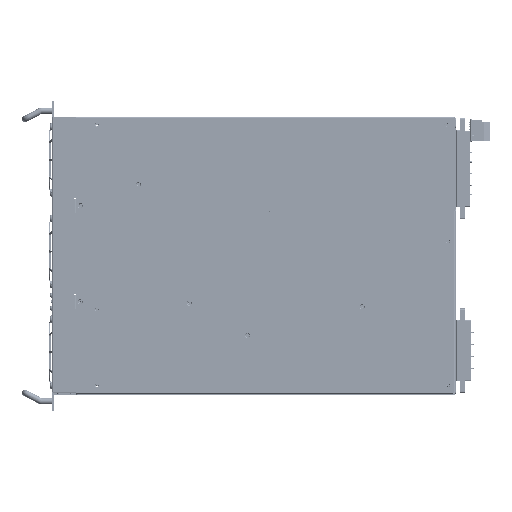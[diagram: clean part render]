
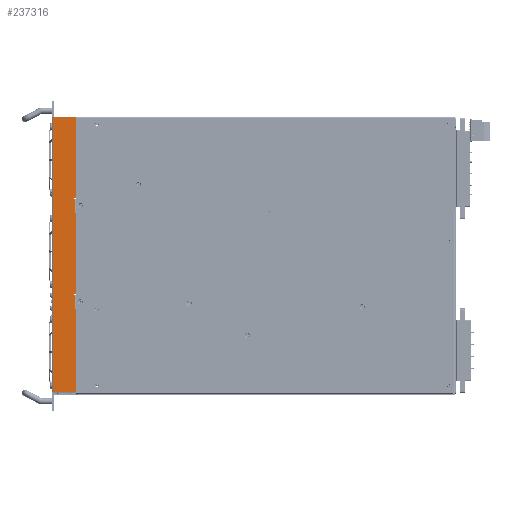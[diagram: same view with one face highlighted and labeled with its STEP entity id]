
A CAD part, front view. The second image highlights one B-rep face of the part: STEP entity #237316.
In plain terms, the highlighted planar face has unit normal (0, -1, 0) as drawn and (0, 0, -1) by its records, which use the part's own axes.
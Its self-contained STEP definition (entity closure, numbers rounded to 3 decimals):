
#9938=PLANE('',#253284);
#22821=LINE('',#347288,#44133);
#22823=LINE('',#347292,#44135);
#22828=LINE('',#347302,#44140);
#22934=LINE('',#347591,#44246);
#22987=LINE('',#347709,#44299);
#22991=LINE('',#347718,#44303);
#22994=LINE('',#347724,#44306);
#22996=LINE('',#347727,#44308);
#22999=LINE('',#347733,#44311);
#23002=LINE('',#347739,#44314);
#25508=LINE('',#363506,#46820);
#25607=LINE('',#363771,#46919);
#25612=LINE('',#363786,#46924);
#25651=LINE('',#364051,#46963);
#25654=LINE('',#364055,#46966);
#25660=LINE('',#364065,#46972);
#25661=LINE('',#364067,#46973);
#25662=LINE('',#364068,#46974);
#25663=LINE('',#364070,#46975);
#25664=LINE('',#364071,#46976);
#44133=VECTOR('',#284754,1000.);
#44135=VECTOR('',#284758,1000.);
#44140=VECTOR('',#284765,1000.);
#44246=VECTOR('',#285067,1000.);
#44299=VECTOR('',#285180,1000.);
#44303=VECTOR('',#285186,1000.);
#44306=VECTOR('',#285191,1000.);
#44308=VECTOR('',#285195,1000.);
#44311=VECTOR('',#285200,1000.);
#44314=VECTOR('',#285205,1000.);
#46820=VECTOR('',#294047,1000.);
#46919=VECTOR('',#294326,1000.);
#46924=VECTOR('',#294341,1000.);
#46963=VECTOR('',#294766,1000.);
#46966=VECTOR('',#294771,1000.);
#46972=VECTOR('',#294781,1000.);
#46973=VECTOR('',#294782,1000.);
#46974=VECTOR('',#294783,1000.);
#46975=VECTOR('',#294784,1000.);
#46976=VECTOR('',#294785,1000.);
#91588=ORIENTED_EDGE('',*,*,#137995,.T.);
#91589=ORIENTED_EDGE('',*,*,#137996,.T.);
#91590=ORIENTED_EDGE('',*,*,#132414,.T.);
#91591=ORIENTED_EDGE('',*,*,#132411,.T.);
#91592=ORIENTED_EDGE('',*,*,#132407,.T.);
#91593=ORIENTED_EDGE('',*,*,#137986,.F.);
#91594=ORIENTED_EDGE('',*,*,#137846,.F.);
#91595=ORIENTED_EDGE('',*,*,#137854,.T.);
#91596=ORIENTED_EDGE('',*,*,#137701,.F.);
#91597=ORIENTED_EDGE('',*,*,#137989,.F.);
#91598=ORIENTED_EDGE('',*,*,#132422,.T.);
#91599=ORIENTED_EDGE('',*,*,#132419,.T.);
#91600=ORIENTED_EDGE('',*,*,#132416,.T.);
#91601=ORIENTED_EDGE('',*,*,#132347,.T.);
#91602=ORIENTED_EDGE('',*,*,#137997,.F.);
#91603=ORIENTED_EDGE('',*,*,#137998,.T.);
#91604=ORIENTED_EDGE('',*,*,#132193,.F.);
#91605=ORIENTED_EDGE('',*,*,#132191,.F.);
#91606=ORIENTED_EDGE('',*,*,#132198,.T.);
#91607=ORIENTED_EDGE('',*,*,#137999,.T.);
#132191=EDGE_CURVE('',#159763,#159764,#22821,.T.);
#132193=EDGE_CURVE('',#159764,#159765,#22823,.T.);
#132198=EDGE_CURVE('',#159763,#159768,#22828,.T.);
#132347=EDGE_CURVE('',#159854,#159788,#22934,.T.);
#132407=EDGE_CURVE('',#159889,#159890,#22987,.T.);
#132411=EDGE_CURVE('',#159893,#159889,#22991,.T.);
#132414=EDGE_CURVE('',#159856,#159893,#22994,.T.);
#132416=EDGE_CURVE('',#159895,#159854,#22996,.T.);
#132419=EDGE_CURVE('',#159897,#159895,#22999,.T.);
#132422=EDGE_CURVE('',#159899,#159897,#23002,.T.);
#137701=EDGE_CURVE('',#163443,#163444,#25508,.T.);
#137846=EDGE_CURVE('',#163518,#163519,#25607,.T.);
#137854=EDGE_CURVE('',#163518,#163444,#25612,.T.);
#137986=EDGE_CURVE('',#163519,#159890,#25651,.T.);
#137989=EDGE_CURVE('',#159899,#163443,#25654,.T.);
#137995=EDGE_CURVE('',#163535,#159791,#25660,.T.);
#137996=EDGE_CURVE('',#159791,#159856,#25661,.T.);
#137997=EDGE_CURVE('',#163536,#159788,#25662,.T.);
#137998=EDGE_CURVE('',#163536,#159765,#25663,.T.);
#137999=EDGE_CURVE('',#159768,#163535,#25664,.T.);
#159763=VERTEX_POINT('',#347287);
#159764=VERTEX_POINT('',#347289);
#159765=VERTEX_POINT('',#347293);
#159768=VERTEX_POINT('',#347301);
#159788=VERTEX_POINT('',#347349);
#159791=VERTEX_POINT('',#347356);
#159854=VERTEX_POINT('',#347592);
#159856=VERTEX_POINT('',#347600);
#159889=VERTEX_POINT('',#347710);
#159890=VERTEX_POINT('',#347711);
#159893=VERTEX_POINT('',#347719);
#159895=VERTEX_POINT('',#347728);
#159897=VERTEX_POINT('',#347734);
#159899=VERTEX_POINT('',#347740);
#163443=VERTEX_POINT('',#363507);
#163444=VERTEX_POINT('',#363508);
#163518=VERTEX_POINT('',#363770);
#163519=VERTEX_POINT('',#363772);
#163535=VERTEX_POINT('',#364066);
#163536=VERTEX_POINT('',#364069);
#185872=EDGE_LOOP('',(#91588,#91589,#91590,#91591,#91592,#91593,#91594,
#91595,#91596,#91597,#91598,#91599,#91600,#91601,#91602,#91603,#91604,#91605,
#91606,#91607));
#198822=FACE_BOUND('',#185872,.T.);
#237316=ADVANCED_FACE('',(#198822),#9938,.T.);
#253284=AXIS2_PLACEMENT_3D('',#364064,#294779,#294780);
#284754=DIRECTION('',(-1.,0.,0.));
#284758=DIRECTION('',(0.,-1.,0.));
#284765=DIRECTION('',(0.,-1.,0.));
#285067=DIRECTION('',(1.,0.,0.));
#285180=DIRECTION('',(0.,1.,0.));
#285186=DIRECTION('',(1.,0.,0.));
#285191=DIRECTION('',(0.,-1.,0.));
#285195=DIRECTION('',(0.,1.,0.));
#285200=DIRECTION('',(1.,0.,0.));
#285205=DIRECTION('',(0.,-1.,0.));
#294047=DIRECTION('',(0.,-1.,0.));
#294326=DIRECTION('',(0.,1.,0.));
#294341=DIRECTION('',(-1.,0.,0.));
#294766=DIRECTION('',(-1.,0.,0.));
#294771=DIRECTION('',(-1.,0.,0.));
#294779=DIRECTION('',(0.,0.,-1.));
#294780=DIRECTION('',(-1.,0.,0.));
#294781=DIRECTION('',(0.,1.,0.));
#294782=DIRECTION('',(1.,0.,0.));
#294783=DIRECTION('',(0.,1.,0.));
#294784=DIRECTION('',(1.,0.,0.));
#294785=DIRECTION('',(1.,0.,0.));
#347287=CARTESIAN_POINT('',(46.407,24.8,-42.));
#347288=CARTESIAN_POINT('',(46.407,24.8,-42.));
#347289=CARTESIAN_POINT('',(-41.393,24.8,-42.));
#347292=CARTESIAN_POINT('',(-41.393,112.608,-42.));
#347293=CARTESIAN_POINT('',(-41.393,22.9,-42.));
#347301=CARTESIAN_POINT('',(46.407,22.9,-42.));
#347302=CARTESIAN_POINT('',(46.407,112.608,-42.));
#347349=CARTESIAN_POINT('',(-41.993,23.5,-42.));
#347356=CARTESIAN_POINT('',(47.007,23.5,-42.));
#347591=CARTESIAN_POINT('',(-56.993,23.5,-42.));
#347592=CARTESIAN_POINT('',(-56.993,23.5,-42.));
#347600=CARTESIAN_POINT('',(62.007,23.5,-42.));
#347709=CARTESIAN_POINT('',(62.607,0.,-42.));
#347710=CARTESIAN_POINT('',(62.607,22.9,-42.));
#347711=CARTESIAN_POINT('',(62.607,24.8,-42.));
#347718=CARTESIAN_POINT('',(0.,22.9,-42.));
#347719=CARTESIAN_POINT('',(62.007,22.9,-42.));
#347724=CARTESIAN_POINT('',(62.007,0.,-42.));
#347727=CARTESIAN_POINT('',(-56.993,0.,-42.));
#347728=CARTESIAN_POINT('',(-56.993,22.9,-42.));
#347733=CARTESIAN_POINT('',(0.,22.9,-42.));
#347734=CARTESIAN_POINT('',(-57.593,22.9,-42.));
#347739=CARTESIAN_POINT('',(-57.593,0.,-42.));
#347740=CARTESIAN_POINT('',(-57.593,24.8,-42.));
#363506=CARTESIAN_POINT('',(-147.3,0.,-42.));
#363507=CARTESIAN_POINT('',(-147.3,24.8,-42.));
#363508=CARTESIAN_POINT('',(-147.3,0.1,-42.));
#363770=CARTESIAN_POINT('',(150.,0.1,-42.));
#363771=CARTESIAN_POINT('',(150.,24.8,-42.));
#363772=CARTESIAN_POINT('',(150.,24.8,-42.));
#363786=CARTESIAN_POINT('',(0.,0.1,-42.));
#364051=CARTESIAN_POINT('',(-147.3,24.8,-42.));
#364055=CARTESIAN_POINT('',(-147.3,24.8,-42.));
#364064=CARTESIAN_POINT('',(0.,0.,-42.));
#364065=CARTESIAN_POINT('',(47.007,-99.481,-42.));
#364066=CARTESIAN_POINT('',(47.007,22.9,-42.));
#364067=CARTESIAN_POINT('',(-56.993,23.5,-42.));
#364068=CARTESIAN_POINT('',(-41.993,-99.481,-42.));
#364069=CARTESIAN_POINT('',(-41.993,22.9,-42.));
#364070=CARTESIAN_POINT('',(47.007,22.9,-42.));
#364071=CARTESIAN_POINT('',(47.007,22.9,-42.));
